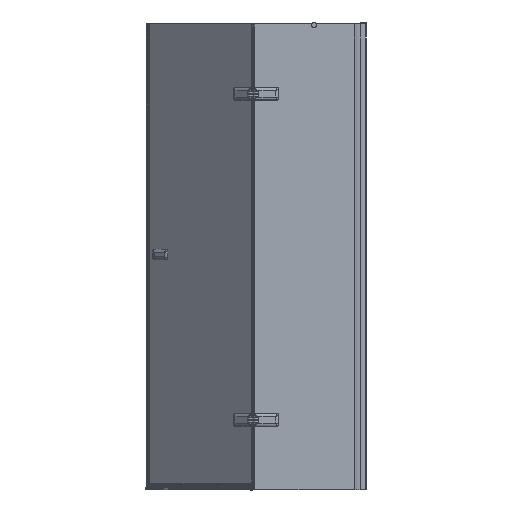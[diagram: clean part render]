
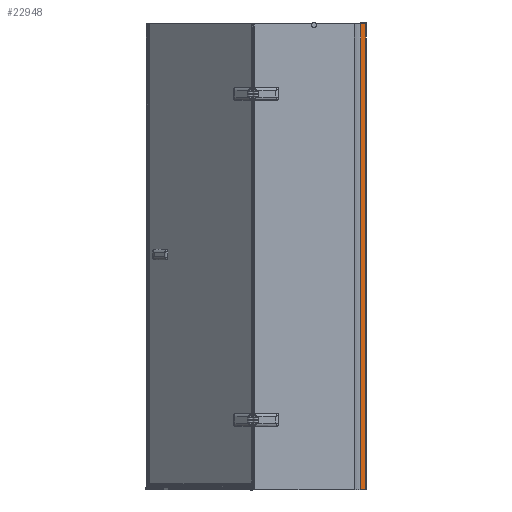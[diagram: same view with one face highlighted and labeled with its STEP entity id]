
A CAD part, front view. The second image highlights one B-rep face of the part: STEP entity #22948.
In plain terms, the highlighted planar face has unit normal (0, -1, 0).
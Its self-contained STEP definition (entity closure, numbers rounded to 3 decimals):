
#852=PLANE($,#24842);
#2035=FACE_OUTER_BOUND($,#3343,.T.);
#3343=EDGE_LOOP($,(#18813,#18814,#18815,#18816));
#3725=LINE($,#31547,#5728);
#5123=LINE($,#52147,#7126);
#5134=LINE($,#52168,#7137);
#5135=LINE($,#52170,#7138);
#5728=VECTOR($,#25424,22.26);
#7126=VECTOR($,#29850,22.26);
#7137=VECTOR($,#29871,2000.);
#7138=VECTOR($,#29874,2000.);
#8859=VERTEX_POINT($,#31544);
#8860=VERTEX_POINT($,#31546);
#10407=VERTEX_POINT($,#52144);
#10408=VERTEX_POINT($,#52146);
#10940=EDGE_CURVE($,#8859,#8860,#3725,.T.);
#13330=EDGE_CURVE($,#10408,#10407,#5123,.T.);
#13343=EDGE_CURVE($,#8860,#10407,#5134,.T.);
#13344=EDGE_CURVE($,#8859,#10408,#5135,.T.);
#18813=ORIENTED_EDGE($,*,*,#10940,.F.);
#18814=ORIENTED_EDGE($,*,*,#13344,.T.);
#18815=ORIENTED_EDGE($,*,*,#13330,.T.);
#18816=ORIENTED_EDGE($,*,*,#13343,.F.);
#22948=ADVANCED_FACE($,(#2035),#852,.F.);
#24842=AXIS2_PLACEMENT_3D($,#52169,#29872,#29873);
#25424=DIRECTION($,(1.,0.,0.));
#29850=DIRECTION($,(1.,0.,0.));
#29871=DIRECTION($,(0.,0.,-1.));
#29872=DIRECTION('center_axis',(0.,1.,0.));
#29873=DIRECTION('ref_axis',(1.,0.,0.));
#29874=DIRECTION($,(0.,0.,-1.));
#31544=CARTESIAN_POINT('',(342.959,-183.292,1585.944));
#31546=CARTESIAN_POINT('',(365.219,-183.292,1585.944));
#31547=CARTESIAN_POINT($,(342.959,-183.292,1585.944));
#52144=CARTESIAN_POINT('',(365.219,-183.292,-414.056));
#52146=CARTESIAN_POINT('',(342.959,-183.292,-414.056));
#52147=CARTESIAN_POINT($,(342.959,-183.292,-414.056));
#52168=CARTESIAN_POINT($,(365.219,-183.292,1585.944));
#52169=CARTESIAN_POINT('Origin',(342.959,-183.292,1585.944));
#52170=CARTESIAN_POINT($,(342.959,-183.292,1585.944));
